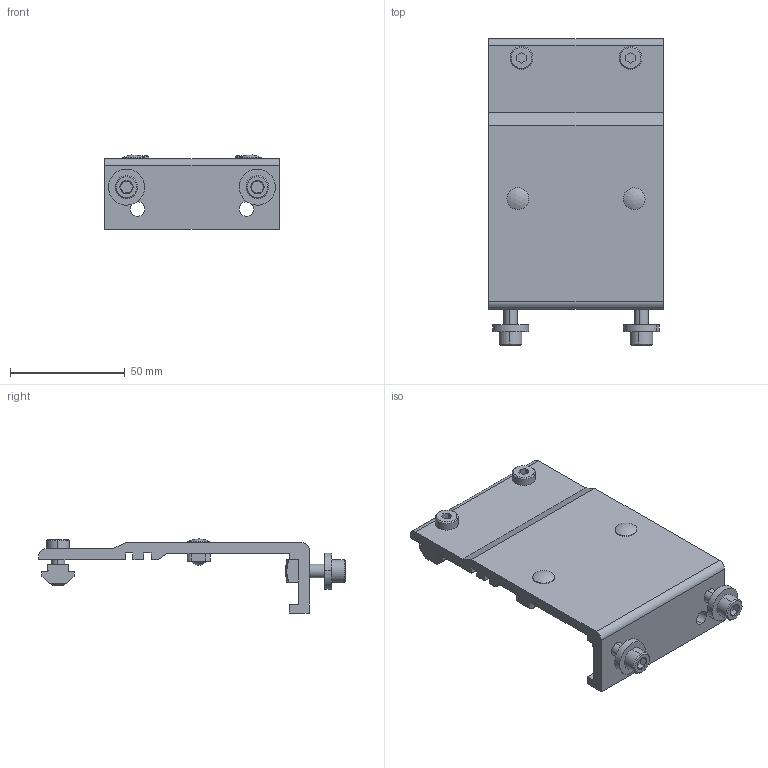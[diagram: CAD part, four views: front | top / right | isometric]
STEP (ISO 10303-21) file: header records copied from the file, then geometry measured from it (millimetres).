
FILE_DESCRIPTION((''),'2;1');
FILE_NAME('208427_ASM','2023-02-27T',('jenni.wallner'),(''),'PRO/ENGINEER BY PARAMETRIC TECHNOLOGY CORPORATION, 2012420','PRO/ENGINEER BY PARAMETRIC TECHNOLOGY CORPORATION, 2012420','');
FILE_SCHEMA(('CONFIG_CONTROL_DESIGN'));
Length unit declared in the file: inch
Products named in the file (11): 9506XXM_950616M; 208426; 240831; 914-006; 208455_ASM; 300150M_300150M; 9206XXM_920620M; 990603M; 605279P; ASM0001_ASM; 208427_ASM
Assembly tree (15 placements, depth 4):
  208427_ASM
    ASM0001_ASM
      9506XXM_950616M  x2
      208455_ASM
        208426
        240831
        914-006  x2
      300150M_300150M
      9206XXM_920620M  x2
      990603M  x2
      605279P  x2
Bounding box: 76.2 x 133.81 x 32.31 mm (x, y, z)
Volume: 68965 mm3; surface area: 36365.8 mm2
Topology: 13 solids, 13 shells, 228 faces, 528 edges, 334 vertices
Faces by surface type: plane 104, cylinder 80, cone 38, bspline 4, sphere 2
Entity records: 5158 total; most frequent: CARTESIAN_POINT 1007, DIRECTION 893, ORIENTED_EDGE 758, EDGE_CURVE 379, AXIS2_PLACEMENT_3D 336, VERTEX_POINT 245, VECTOR 221, LINE 221
